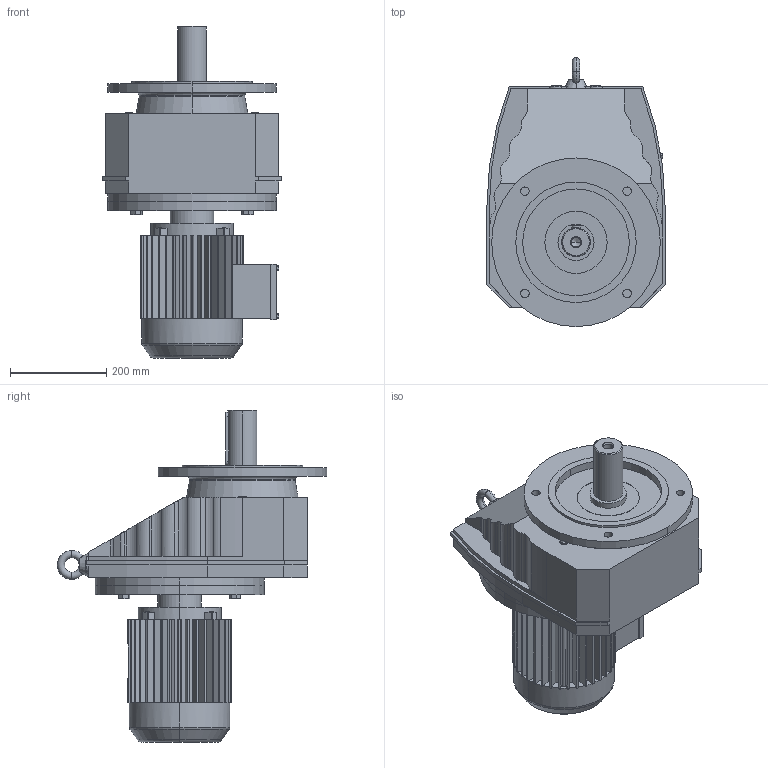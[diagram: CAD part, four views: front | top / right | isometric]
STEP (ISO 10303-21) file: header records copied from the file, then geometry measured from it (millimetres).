
FILE_DESCRIPTION(('Open CASCADE Model'),'2;1');
FILE_NAME('Open CASCADE Shape Model','2021-07-14T10:18:57',('Author'),( 'Open CASCADE'),'Open CASCADE STEP processor 6.3','Open CASCADE 6.3' ,'Unknown');
FILE_SCHEMA(('AUTOMOTIVE_DESIGN_CC2 { 1 2 10303 214 -1 1 5 4 }'));
Length unit declared in the file: millimetre
Products named in the file (3): 1_RXF107-Y100M-350; RXF57‵107_107_350.step; 萇儂_350_Y100M.step
Assembly tree (2 placements, depth 2):
  1_RXF107-Y100M-350
    RXF57‵107_107_350.step
    萇儂_350_Y100M.step
Bounding box: 370 x 559 x 689 mm (x, y, z)
Volume: 37389752.1 mm3; surface area: 1467820.8 mm2
Topology: 2 solids, 2 shells, 622 faces, 1638 edges, 1056 vertices
Faces by surface type: plane 409, cylinder 187, torus 14, cone 12
Entity records: 43769 total; most frequent: CARTESIAN_POINT 13019, DIRECTION 5265, ORIENTED_EDGE 3272, PCURVE 3272, DEFINITIONAL_REPRESENTATION 3272, LINE 2704, VECTOR 2704, EDGE_CURVE 1636
